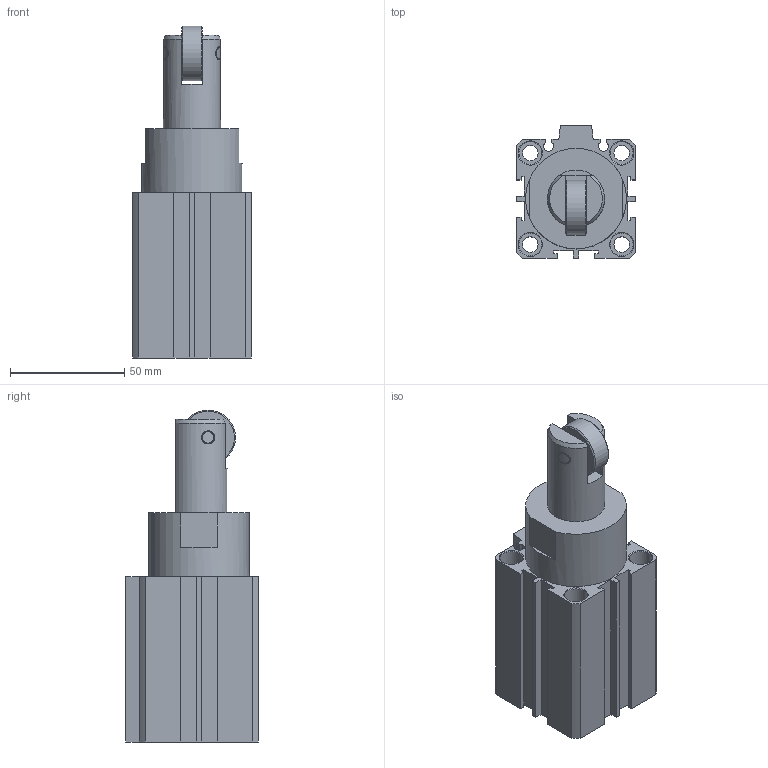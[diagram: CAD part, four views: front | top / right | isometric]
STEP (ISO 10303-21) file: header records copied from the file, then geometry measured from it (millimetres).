
FILE_DESCRIPTION((''),'2;1');
FILE_NAME('I:\3D電子目錄\氣缸\STC\STC\STC40\STC40x20.stp','2007-09-19T15:43:25',('Administrator'),(''),'Autodesk Inventor 11','Autodesk Inventor 11','');
FILE_SCHEMA(('AUTOMOTIVE_DESIGN { 1 0 10303 214 1 1 1 1 }'));
Length unit declared in the file: millimetre
Products named in the file (1): STC40
Bounding box: 52 x 58 x 145.2 mm (x, y, z)
Volume: 228852.6 mm3; surface area: 44792.4 mm2
Topology: 3 solids, 3 shells, 144 faces, 340 edges, 223 vertices
Faces by surface type: plane 84, cylinder 36, cone 18, bspline 5, torus 1
Full cylindrical faces by diameter (mm): 2.2 x2, 5 x2, 5.2 x2, 6.8 x4, 10 x8, 24 x1, 29 x1, 42 x2, 44 x2, 44.5 x2
Entity records: 4499 total; most frequent: CARTESIAN_POINT 1324, DIRECTION 646, ORIENTED_EDGE 570, EDGE_CURVE 285, AXIS2_PLACEMENT_3D 233, EDGE_LOOP 224, VERTEX_POINT 213, VECTOR 180
